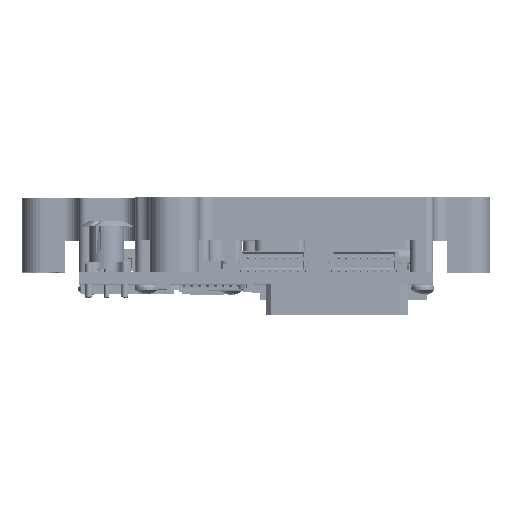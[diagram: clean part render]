
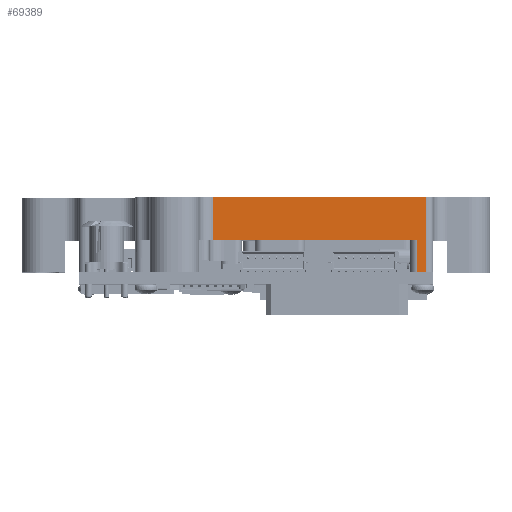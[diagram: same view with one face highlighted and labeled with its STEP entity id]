
A CAD part, top view. The second image highlights one B-rep face of the part: STEP entity #69389.
In plain terms, the highlighted planar face has unit normal (0, 0, 1) as drawn and (-1, 0, 0) by its records, which use the part's own axes.
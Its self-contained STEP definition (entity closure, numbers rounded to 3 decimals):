
#3660 = VERTEX_POINT ( 'NONE', #44470 ) ;
#13531 = CARTESIAN_POINT ( 'NONE',  ( -40., 7.5, 24. ) ) ;
#21754 = CARTESIAN_POINT ( 'NONE',  ( -40., 9.5, -6. ) ) ;
#21778 = CARTESIAN_POINT ( 'NONE',  ( -40., 3.486, 22.719 ) ) ;
#24324 = LINE ( 'NONE', #79500, #174004 ) ;
#26175 = DIRECTION ( 'NONE',  ( 1., 0., 0. ) ) ;
#27795 = LINE ( 'NONE', #67351, #73856 ) ;
#28086 = DIRECTION ( 'NONE',  ( 0., -1., 0. ) ) ;
#31452 = AXIS2_PLACEMENT_3D ( 'NONE', #108980, #26175, #95198 ) ;
#32289 = CARTESIAN_POINT ( 'NONE',  ( -40., -1., 24. ) ) ;
#34227 = EDGE_LOOP ( 'NONE', ( #159427, #56495, #92453, #176110, #122596, #35723 ) ) ;
#35723 = ORIENTED_EDGE ( 'NONE', *, *, #44725, .F. ) ;
#41099 = CARTESIAN_POINT ( 'NONE',  ( -40., -1., 22.719 ) ) ;
#43975 = VECTOR ( 'NONE', #28086, 1000. ) ;
#44470 = CARTESIAN_POINT ( 'NONE',  ( -40., 3.486, -6. ) ) ;
#44725 = EDGE_CURVE ( 'NONE', #47948, #153542, #27795, .T. ) ;
#47948 = VERTEX_POINT ( 'NONE', #21754 ) ;
#56495 = ORIENTED_EDGE ( 'NONE', *, *, #166209, .F. ) ;
#64884 = PLANE ( 'NONE',  #31452 ) ;
#67351 = CARTESIAN_POINT ( 'NONE',  ( -40., 9.5, -6. ) ) ;
#69389 = ADVANCED_FACE ( 'NONE', ( #165110 ), #64884, .F. ) ;
#73856 = VECTOR ( 'NONE', #98574, 1000. ) ;
#79500 = CARTESIAN_POINT ( 'NONE',  ( -40., -1., 0. ) ) ;
#79969 = VECTOR ( 'NONE', #120194, 1000. ) ;
#82317 = CARTESIAN_POINT ( 'NONE',  ( -40., 7.5, 22.719 ) ) ;
#90317 = CARTESIAN_POINT ( 'NONE',  ( -40., 9.5, 24. ) ) ;
#92453 = ORIENTED_EDGE ( 'NONE', *, *, #151267, .T. ) ;
#93909 = EDGE_CURVE ( 'NONE', #131121, #170169, #24324, .T. ) ;
#95198 = DIRECTION ( 'NONE',  ( 0., 0., -1. ) ) ;
#98574 = DIRECTION ( 'NONE',  ( 0., 0., 1. ) ) ;
#99463 = VECTOR ( 'NONE', #171339, 1000. ) ;
#99810 = VERTEX_POINT ( 'NONE', #117889 ) ;
#108980 = CARTESIAN_POINT ( 'NONE',  ( -40., 7.5, 25. ) ) ;
#117889 = CARTESIAN_POINT ( 'NONE',  ( -40., 3.486, 22.719 ) ) ;
#120194 = DIRECTION ( 'NONE',  ( 0., 0., -1. ) ) ;
#122596 = ORIENTED_EDGE ( 'NONE', *, *, #173319, .T. ) ;
#123290 = VECTOR ( 'NONE', #125744, 1000. ) ;
#125744 = DIRECTION ( 'NONE',  ( 0., 1., 0. ) ) ;
#131121 = VERTEX_POINT ( 'NONE', #32289 ) ;
#140429 = LINE ( 'NONE', #13531, #123290 ) ;
#147744 = LINE ( 'NONE', #21778, #79969 ) ;
#151267 = EDGE_CURVE ( 'NONE', #99810, #170169, #152264, .T. ) ;
#152135 = DIRECTION ( 'NONE',  ( 0., 0., -1. ) ) ;
#152251 = EDGE_CURVE ( 'NONE', #47948, #3660, #155700, .T. ) ;
#152264 = LINE ( 'NONE', #82317, #43975 ) ;
#153542 = VERTEX_POINT ( 'NONE', #90317 ) ;
#155700 = LINE ( 'NONE', #172238, #99463 ) ;
#159427 = ORIENTED_EDGE ( 'NONE', *, *, #152251, .T. ) ;
#165110 = FACE_OUTER_BOUND ( 'NONE', #34227, .T. ) ;
#166209 = EDGE_CURVE ( 'NONE', #99810, #3660, #147744, .T. ) ;
#170169 = VERTEX_POINT ( 'NONE', #41099 ) ;
#171339 = DIRECTION ( 'NONE',  ( 0., -1., 0. ) ) ;
#172238 = CARTESIAN_POINT ( 'NONE',  ( -40., 7.5, -6. ) ) ;
#173319 = EDGE_CURVE ( 'NONE', #131121, #153542, #140429, .T. ) ;
#174004 = VECTOR ( 'NONE', #152135, 1000. ) ;
#176110 = ORIENTED_EDGE ( 'NONE', *, *, #93909, .F. ) ;
